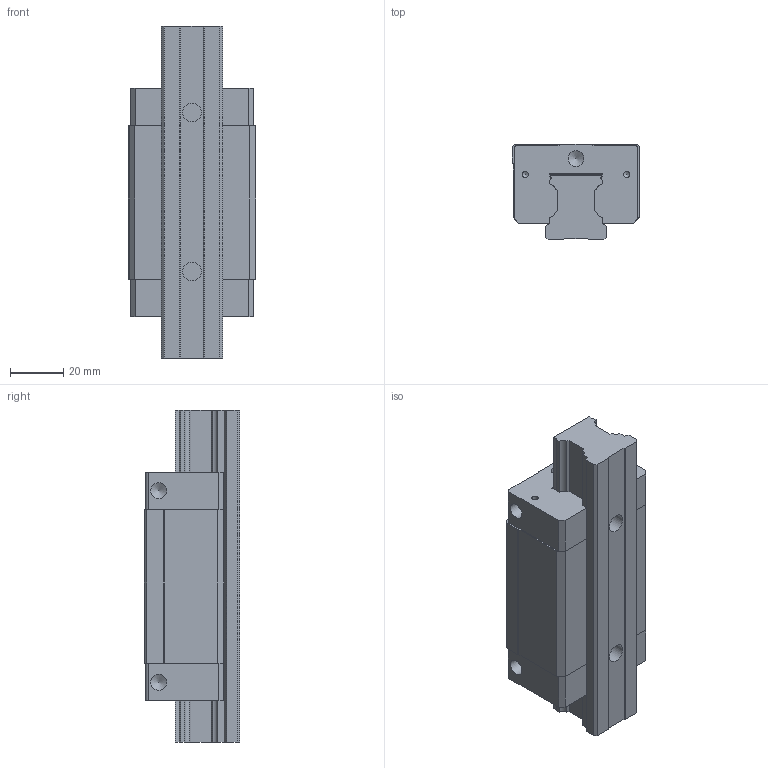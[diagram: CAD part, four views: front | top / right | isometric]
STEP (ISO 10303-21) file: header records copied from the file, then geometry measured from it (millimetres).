
FILE_DESCRIPTION(/* description */ ('Unknown'),/* implementation_level */ '2;1');
FILE_NAME(/* name */ 'SIZE25_294',/* time_stamp */ '2019-11-19T15:59:18-05:00',/* author */ ('Unknown'),/* organization */ ('Unknown'),/* preprocessor_version */ 'ST-DEVELOPER v16.7',/* originating_system */ 'Solid Edge',/* authorisation */ 'Unknown');
FILE_SCHEMA (('AUTOMOTIVE_DESIGN {1 0 10303 214 3 1 1}'));
Length unit declared in the file: millimetre
Products named in the file (4): SIZE25_294; Rexroth-R1622-214-20; R160520431_3836_1
Assembly tree (3 placements, depth 3):
  SIZE25_294
    Rexroth-R1622-214-20
      Rexroth-R1622-214-20
    R160520431_3836_1
Bounding box: 48 x 36 x 125.14 mm (x, y, z)
Volume: 142896.5 mm3; surface area: 35056.2 mm2
Topology: 2 solids, 2 shells, 130 faces, 358 edges, 236 vertices
Faces by surface type: plane 84, cylinder 32, cone 14
Full cylindrical faces by diameter (mm): 2.4 x4, 4.8 x4, 6 x6, 7 x4, 11 x2
Entity records: 4551 total; most frequent: CARTESIAN_POINT 668, DIRECTION 636, ORIENTED_EDGE 608, EDGE_CURVE 304, LINE 240, VECTOR 240, VERTEX_POINT 230, AXIS2_PLACEMENT_3D 198
